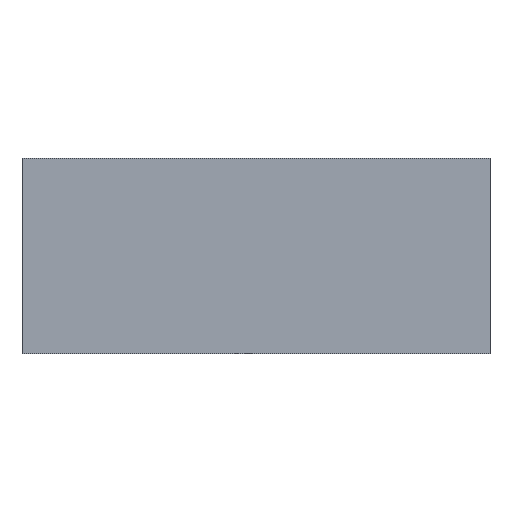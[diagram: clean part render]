
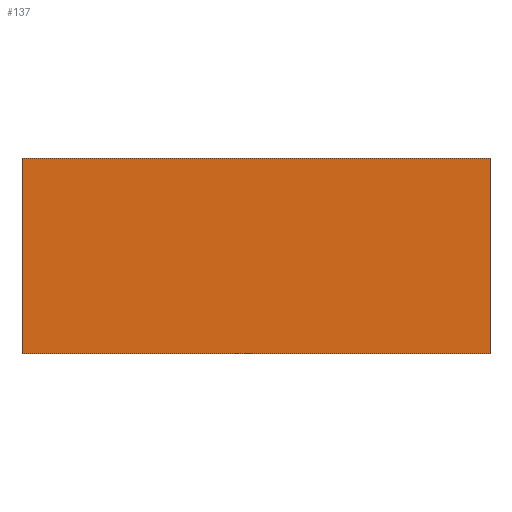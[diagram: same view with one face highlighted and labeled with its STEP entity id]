
A CAD part, front view. The second image highlights one B-rep face of the part: STEP entity #137.
In plain terms, the highlighted planar face has unit normal (0, -1, 0).
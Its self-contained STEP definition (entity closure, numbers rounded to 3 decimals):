
#21 = EDGE_CURVE('',#22,#24,#26,.T.);
#22 = VERTEX_POINT('',#23);
#23 = CARTESIAN_POINT('',(0.,0.,0.));
#24 = VERTEX_POINT('',#25);
#25 = CARTESIAN_POINT('',(0.,0.,15.));
#26 = SURFACE_CURVE('',#27,(#31,#43),.PCURVE_S1.);
#27 = LINE('',#28,#29);
#28 = CARTESIAN_POINT('',(0.,0.,0.));
#29 = VECTOR('',#30,1.);
#30 = DIRECTION('',(0.,0.,1.));
#31 = PCURVE('',#32,#37);
#32 = PLANE('',#33);
#33 = AXIS2_PLACEMENT_3D('',#34,#35,#36);
#34 = CARTESIAN_POINT('',(0.,0.,0.));
#35 = DIRECTION('',(1.,0.,0.));
#36 = DIRECTION('',(0.,0.,1.));
#37 = DEFINITIONAL_REPRESENTATION('',(#38),#42);
#38 = LINE('',#39,#40);
#39 = CARTESIAN_POINT('',(0.,0.));
#40 = VECTOR('',#41,1.);
#41 = DIRECTION('',(1.,0.));
#42 = ( GEOMETRIC_REPRESENTATION_CONTEXT(2) 
PARAMETRIC_REPRESENTATION_CONTEXT() REPRESENTATION_CONTEXT('2D SPACE',''
  ) );
#43 = PCURVE('',#44,#49);
#44 = PLANE('',#45);
#45 = AXIS2_PLACEMENT_3D('',#46,#47,#48);
#46 = CARTESIAN_POINT('',(0.,0.,0.));
#47 = DIRECTION('',(0.,1.,0.));
#48 = DIRECTION('',(0.,0.,1.));
#49 = DEFINITIONAL_REPRESENTATION('',(#50),#54);
#50 = LINE('',#51,#52);
#51 = CARTESIAN_POINT('',(0.,0.));
#52 = VECTOR('',#53,1.);
#53 = DIRECTION('',(1.,0.));
#54 = ( GEOMETRIC_REPRESENTATION_CONTEXT(2) 
PARAMETRIC_REPRESENTATION_CONTEXT() REPRESENTATION_CONTEXT('2D SPACE',''
  ) );
#72 = PLANE('',#73);
#73 = AXIS2_PLACEMENT_3D('',#74,#75,#76);
#74 = CARTESIAN_POINT('',(0.,0.,0.));
#75 = DIRECTION('',(0.,0.,1.));
#76 = DIRECTION('',(1.,0.,0.));
#126 = PLANE('',#127);
#127 = AXIS2_PLACEMENT_3D('',#128,#129,#130);
#128 = CARTESIAN_POINT('',(0.,0.,15.));
#129 = DIRECTION('',(0.,0.,1.));
#130 = DIRECTION('',(1.,0.,0.));
#137 = ADVANCED_FACE('',(#138),#44,.F.);
#138 = FACE_BOUND('',#139,.F.);
#139 = EDGE_LOOP('',(#140,#163,#164,#187));
#140 = ORIENTED_EDGE('',*,*,#141,.F.);
#141 = EDGE_CURVE('',#22,#142,#144,.T.);
#142 = VERTEX_POINT('',#143);
#143 = CARTESIAN_POINT('',(36.,0.,0.));
#144 = SURFACE_CURVE('',#145,(#149,#156),.PCURVE_S1.);
#145 = LINE('',#146,#147);
#146 = CARTESIAN_POINT('',(0.,0.,0.));
#147 = VECTOR('',#148,1.);
#148 = DIRECTION('',(1.,0.,0.));
#149 = PCURVE('',#44,#150);
#150 = DEFINITIONAL_REPRESENTATION('',(#151),#155);
#151 = LINE('',#152,#153);
#152 = CARTESIAN_POINT('',(0.,0.));
#153 = VECTOR('',#154,1.);
#154 = DIRECTION('',(0.,1.));
#155 = ( GEOMETRIC_REPRESENTATION_CONTEXT(2) 
PARAMETRIC_REPRESENTATION_CONTEXT() REPRESENTATION_CONTEXT('2D SPACE',''
  ) );
#156 = PCURVE('',#72,#157);
#157 = DEFINITIONAL_REPRESENTATION('',(#158),#162);
#158 = LINE('',#159,#160);
#159 = CARTESIAN_POINT('',(0.,0.));
#160 = VECTOR('',#161,1.);
#161 = DIRECTION('',(1.,0.));
#162 = ( GEOMETRIC_REPRESENTATION_CONTEXT(2) 
PARAMETRIC_REPRESENTATION_CONTEXT() REPRESENTATION_CONTEXT('2D SPACE',''
  ) );
#163 = ORIENTED_EDGE('',*,*,#21,.T.);
#164 = ORIENTED_EDGE('',*,*,#165,.T.);
#165 = EDGE_CURVE('',#24,#166,#168,.T.);
#166 = VERTEX_POINT('',#167);
#167 = CARTESIAN_POINT('',(36.,0.,15.));
#168 = SURFACE_CURVE('',#169,(#173,#180),.PCURVE_S1.);
#169 = LINE('',#170,#171);
#170 = CARTESIAN_POINT('',(0.,0.,15.));
#171 = VECTOR('',#172,1.);
#172 = DIRECTION('',(1.,0.,0.));
#173 = PCURVE('',#44,#174);
#174 = DEFINITIONAL_REPRESENTATION('',(#175),#179);
#175 = LINE('',#176,#177);
#176 = CARTESIAN_POINT('',(15.,0.));
#177 = VECTOR('',#178,1.);
#178 = DIRECTION('',(0.,1.));
#179 = ( GEOMETRIC_REPRESENTATION_CONTEXT(2) 
PARAMETRIC_REPRESENTATION_CONTEXT() REPRESENTATION_CONTEXT('2D SPACE',''
  ) );
#180 = PCURVE('',#126,#181);
#181 = DEFINITIONAL_REPRESENTATION('',(#182),#186);
#182 = LINE('',#183,#184);
#183 = CARTESIAN_POINT('',(0.,0.));
#184 = VECTOR('',#185,1.);
#185 = DIRECTION('',(1.,0.));
#186 = ( GEOMETRIC_REPRESENTATION_CONTEXT(2) 
PARAMETRIC_REPRESENTATION_CONTEXT() REPRESENTATION_CONTEXT('2D SPACE',''
  ) );
#187 = ORIENTED_EDGE('',*,*,#188,.F.);
#188 = EDGE_CURVE('',#142,#166,#189,.T.);
#189 = SURFACE_CURVE('',#190,(#194,#201),.PCURVE_S1.);
#190 = LINE('',#191,#192);
#191 = CARTESIAN_POINT('',(36.,0.,0.));
#192 = VECTOR('',#193,1.);
#193 = DIRECTION('',(0.,0.,1.));
#194 = PCURVE('',#44,#195);
#195 = DEFINITIONAL_REPRESENTATION('',(#196),#200);
#196 = LINE('',#197,#198);
#197 = CARTESIAN_POINT('',(0.,36.));
#198 = VECTOR('',#199,1.);
#199 = DIRECTION('',(1.,0.));
#200 = ( GEOMETRIC_REPRESENTATION_CONTEXT(2) 
PARAMETRIC_REPRESENTATION_CONTEXT() REPRESENTATION_CONTEXT('2D SPACE',''
  ) );
#201 = PCURVE('',#202,#207);
#202 = PLANE('',#203);
#203 = AXIS2_PLACEMENT_3D('',#204,#205,#206);
#204 = CARTESIAN_POINT('',(36.,0.,0.));
#205 = DIRECTION('',(1.,0.,0.));
#206 = DIRECTION('',(0.,0.,1.));
#207 = DEFINITIONAL_REPRESENTATION('',(#208),#212);
#208 = LINE('',#209,#210);
#209 = CARTESIAN_POINT('',(0.,0.));
#210 = VECTOR('',#211,1.);
#211 = DIRECTION('',(1.,0.));
#212 = ( GEOMETRIC_REPRESENTATION_CONTEXT(2) 
PARAMETRIC_REPRESENTATION_CONTEXT() REPRESENTATION_CONTEXT('2D SPACE',''
  ) );
